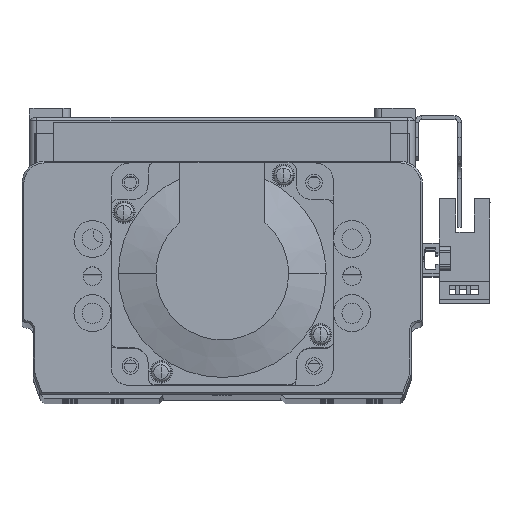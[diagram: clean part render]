
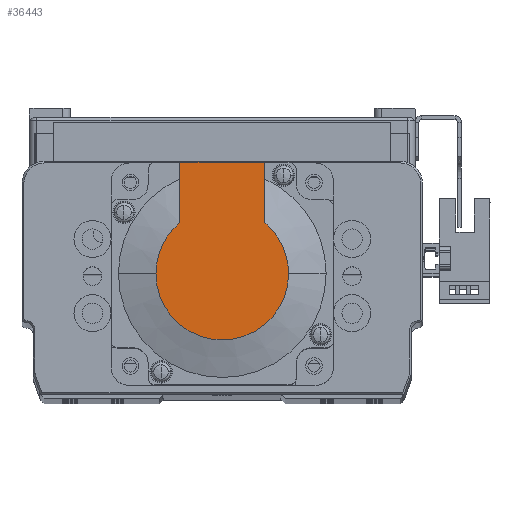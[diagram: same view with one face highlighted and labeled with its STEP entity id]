
A CAD part, top view. The second image highlights one B-rep face of the part: STEP entity #36443.
In plain terms, the highlighted planar face has unit normal (0, 0, 1) as drawn and (-1, 0, 0) by its records, which use the part's own axes.
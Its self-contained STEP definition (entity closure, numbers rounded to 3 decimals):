
#4215 = ORIENTED_EDGE ( 'NONE', *, *, #39650, .T. ) ;
#4218 = ORIENTED_EDGE ( 'NONE', *, *, #39606, .F. ) ;
#4221 = ORIENTED_EDGE ( 'NONE', *, *, #39276, .T. ) ;
#13728 = AXIS2_PLACEMENT_3D ( 'NONE', #48278, #48302, #48309 ) ;
#14139 = AXIS2_PLACEMENT_3D ( 'NONE', #44342, #44346, #44359 ) ;
#14154 = AXIS2_PLACEMENT_3D ( 'NONE', #44669, #44673, #44675 ) ;
#14231 = AXIS2_PLACEMENT_3D ( 'NONE', #46362, #46370, #46374 ) ;
#15458 = EDGE_LOOP ( 'NONE', ( #4215, #25101, #25158, #4221, #4218, #25119 ) ) ;
#17812 = CARTESIAN_POINT ( 'NONE',  ( -99., 0., -17.881 ) ) ;
#17816 = CARTESIAN_POINT ( 'NONE',  ( -99., 13.735, 11.45 ) ) ;
#17833 = CARTESIAN_POINT ( 'NONE',  ( -99., 0., 17.881 ) ) ;
#18072 = CARTESIAN_POINT ( 'NONE',  ( -99., 30., 11.45 ) ) ;
#18135 = CARTESIAN_POINT ( 'NONE',  ( -99., 13.735, -11.45 ) ) ;
#18217 = CARTESIAN_POINT ( 'NONE',  ( -99., 30., -11.45 ) ) ;
#25101 = ORIENTED_EDGE ( 'NONE', *, *, #39603, .T. ) ;
#25119 = ORIENTED_EDGE ( 'NONE', *, *, #39639, .F. ) ;
#25158 = ORIENTED_EDGE ( 'NONE', *, *, #39396, .T. ) ;
#32262 = VERTEX_POINT ( 'NONE', #17812 ) ;
#32308 = VERTEX_POINT ( 'NONE', #17816 ) ;
#32338 = VERTEX_POINT ( 'NONE', #17833 ) ;
#32584 = VERTEX_POINT ( 'NONE', #18072 ) ;
#32632 = VERTEX_POINT ( 'NONE', #18217 ) ;
#32664 = VERTEX_POINT ( 'NONE', #18135 ) ;
#36443 = ADVANCED_FACE ( 'NONE', ( #55064 ), #48322, .T. ) ;
#39276 = EDGE_CURVE ( 'NONE', #32338, #32308, #55700, .T. ) ;
#39396 = EDGE_CURVE ( 'NONE', #32262, #32338, #54693, .T. ) ;
#39603 = EDGE_CURVE ( 'NONE', #32664, #32262, #45294, .T. ) ;
#39606 = EDGE_CURVE ( 'NONE', #32584, #32308, #45239, .T. ) ;
#39639 = EDGE_CURVE ( 'NONE', #32632, #32584, #45358, .T. ) ;
#39650 = EDGE_CURVE ( 'NONE', #32632, #32664, #45310, .T. ) ;
#44342 = CARTESIAN_POINT ( 'NONE',  ( -99., 0., 0. ) ) ;
#44346 = DIRECTION ( 'NONE',  ( -1., 0., 0. ) ) ;
#44359 = DIRECTION ( 'NONE',  ( 0., 0., -1. ) ) ;
#44669 = CARTESIAN_POINT ( 'NONE',  ( -99., 0., 0. ) ) ;
#44673 = DIRECTION ( 'NONE',  ( -1., 0., 0. ) ) ;
#44675 = DIRECTION ( 'NONE',  ( 0., 0., -1. ) ) ;
#45239 = LINE ( 'NONE', #46358, #45247 ) ;
#45247 = VECTOR ( 'NONE', #46367, 1000. ) ;
#45294 = CIRCLE ( 'NONE', #14231, 17.881 ) ;
#45310 = LINE ( 'NONE', #46465, #45344 ) ;
#45324 = VECTOR ( 'NONE', #46440, 1000. ) ;
#45344 = VECTOR ( 'NONE', #46456, 1000. ) ;
#45358 = LINE ( 'NONE', #46446, #45324 ) ;
#46358 = CARTESIAN_POINT ( 'NONE',  ( -99., 0., 11.45 ) ) ;
#46362 = CARTESIAN_POINT ( 'NONE',  ( -99., 0., 0. ) ) ;
#46367 = DIRECTION ( 'NONE',  ( 0., -1., 0. ) ) ;
#46370 = DIRECTION ( 'NONE',  ( -1., 0., 0. ) ) ;
#46374 = DIRECTION ( 'NONE',  ( 0., 0., -1. ) ) ;
#46440 = DIRECTION ( 'NONE',  ( 0., 0., 1. ) ) ;
#46446 = CARTESIAN_POINT ( 'NONE',  ( -99., 30., 25. ) ) ;
#46456 = DIRECTION ( 'NONE',  ( 0., -1., 0. ) ) ;
#46465 = CARTESIAN_POINT ( 'NONE',  ( -99., -8.941, -11.45 ) ) ;
#48278 = CARTESIAN_POINT ( 'NONE',  ( -99., -8.941, 0. ) ) ;
#48302 = DIRECTION ( 'NONE',  ( -1., 0., 0. ) ) ;
#48309 = DIRECTION ( 'NONE',  ( 0., 0., 1. ) ) ;
#48322 = PLANE ( 'NONE',  #13728 ) ;
#54693 = CIRCLE ( 'NONE', #14154, 17.881 ) ;
#55064 = FACE_OUTER_BOUND ( 'NONE', #15458, .T. ) ;
#55700 = CIRCLE ( 'NONE', #14139, 17.881 ) ;
